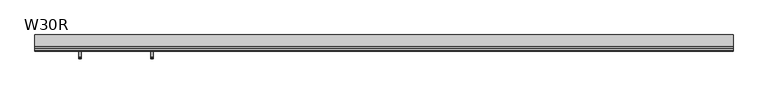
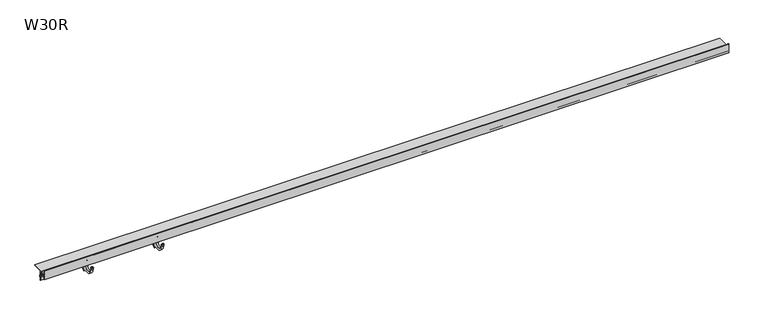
"""IFC4 building model written with IfcOpenShell, lengths in millimetres: proxy geometry, W30R Profil okapowy prosty z rynną : W30R."""

from ifc_helpers import new_model, si_unit, point, frame, frame_2d, origin, place, context, project, spatial, polyline, circle_curve, trimmed, segment, composite_curve, outline, extrude, source, transform, mapped, element, save
from ifc_brep_helpers import plane_surface, cylinder_surface, revolved_surface, advanced_brep


def w30r_80883098(model_context):
    return source(origin(), model_context, "Body", "SolidModel", [
        advanced_brep(
        [(806.4889281, -43.253125, -67.3579557), (806.4889281, 31.746875, -67.3579557), (806.4889281, 33.746875, -48.4650699), (806.4889281, 28.3326614, -49.0508489), (806.4889281, 26.9184479, -50.4650625), (806.4889281, 25.5042343, -49.0508489), (806.4889281, 26.9184479, -47.6366354), (806.4889281, 29.746875, -46.4650625), (806.4889281, 39.746875, -46.4650625), (806.4889281, 39.746875, -121.4650625), (806.4889281, -11.253125, -121.4654849), (806.4889281, -45.753125, -76.6748546), (806.4889281, -45.753125, -62.0548341), (806.4889281, -45.753125, -58.4654849), (806.4889281, -54.253125, -58.4654849), (806.4889281, -54.253125, -56.4654849), (806.4889281, -44.253125, -56.4654849), (806.4889281, -43.253125, -57.4654849), (821.4889281, -43.253125, -67.3579557), (821.4889281, -43.253125, -57.4654849), (821.4889281, -44.253125, -56.4654849), (821.4889281, -54.253125, -56.4654849), (821.4889281, -54.253125, -58.4654849), (821.4889281, -45.753125, -58.4654849), (821.4889281, -45.753125, -62.0548341), (821.4889281, -45.753125, -76.6748546), (821.4889281, -11.253125, -121.4654849), (821.4889281, 39.746875, -121.4650625), (821.4889281, 39.746875, -46.4650625), (821.4889281, 29.746875, -46.4650625), (821.4889281, 26.9184479, -47.6366354), (821.4889281, 25.5042343, -49.0508489), (821.4889281, 26.9184479, -50.4650625), (821.4889281, 28.3326614, -49.0508489), (821.4889281, 33.746875, -48.4650699), (821.4889281, 31.746875, -67.3579557), (833.4889281, 39.746875, -33.4650625), (794.4889281, 39.746875, -33.4650625), (791.4889281, 39.746875, -36.4650625), (791.4889281, 39.746875, -98.4650625), (805.7196973, 39.746875, -132.6189087), (808.4889281, 39.746875, -134.4650625), (819.4889281, 39.746875, -134.4650625), (822.2581588, 39.746875, -132.6189087), (836.4889281, 39.746875, -98.4650625), (836.4889281, 39.746875, -36.4650625), (833.4889281, 41.746875, -33.4650625), (836.4889281, 41.746875, -36.4650625), (836.4889281, 41.746875, -98.4650625), (822.2581588, 41.746875, -132.6189087), (819.4889281, 41.746875, -134.4650625), (808.4889281, 41.746875, -134.4650625), (805.7196973, 41.746875, -132.6189087), (791.4889281, 41.746875, -98.4650625), (791.4889281, 41.746875, -36.4650625), (794.4889281, 41.746875, -33.4650625)],
        [
            (0, 1, circle_curve(frame((806.4889281, -5.753125, -67.3579557), z_axis=(1.0, 0.0, 0.0), x_axis=(0.0, -1.0, 0.0)), 37.5)),
            (1, 2),
            (2, 3, circle_curve(frame((806.4889281, 32.9075381, -66.0213045), z_axis=(1.0, 0.0, 0.0), x_axis=(0.0, -1.0, 0.0)), 17.5762868)),
            (3, 4),
            (4, 5, circle_curve(frame((806.4889281, 26.2113411, -49.7579557), z_axis=(-1.0, 0.0, 0.0), x_axis=(0.0, -1.0, 0.0)), 1.0)),
            (5, 6),
            (6, 7, circle_curve(frame((806.4889281, 29.746875, -50.4650625), z_axis=(-1.0, 0.0, 0.0), x_axis=(0.0, -1.0, 0.0)), 4.0)),
            (7, 8),
            (8, 9),
            (9, 10),
            (10, 11, circle_curve(frame((806.4889281, 6.9272146, -71.7799373), z_axis=(-1.0, 0.0, 0.0), x_axis=(0.0, -1.0, 0.0)), 52.9072622)),
            (11, 12),
            (12, 13),
            (13, 14),
            (14, 15, circle_curve(frame((806.4889281, -54.253125, -57.4654849), z_axis=(-1.0, 0.0, 0.0), x_axis=(0.0, -1.0, 0.0)), 1.0)),
            (15, 16),
            (16, 17, circle_curve(frame((806.4889281, -44.253125, -57.4654849), z_axis=(-1.0, 0.0, 0.0), x_axis=(0.0, -1.0, 0.0)), 1.0)),
            (17, 0),
            (18, 19),
            (19, 20, circle_curve(frame((821.4889281, -44.253125, -57.4654849), z_axis=(1.0, 0.0, 0.0), x_axis=(0.0, -1.0, 0.0)), 1.0)),
            (20, 21),
            (21, 22, circle_curve(frame((821.4889281, -54.253125, -57.4654849), z_axis=(1.0, 0.0, 0.0), x_axis=(0.0, -1.0, 0.0)), 1.0)),
            (22, 23),
            (23, 24),
            (24, 25),
            (25, 26, circle_curve(frame((821.4889281, 6.9272146, -71.7799373), z_axis=(1.0, 0.0, 0.0), x_axis=(0.0, -1.0, 0.0)), 52.9072622)),
            (26, 27),
            (27, 28),
            (28, 29),
            (29, 30, circle_curve(frame((821.4889281, 29.746875, -50.4650625), z_axis=(1.0, 0.0, 0.0), x_axis=(0.0, -1.0, 0.0)), 4.0)),
            (30, 31),
            (31, 32, circle_curve(frame((821.4889281, 26.2113411, -49.7579557), z_axis=(1.0, 0.0, 0.0), x_axis=(0.0, -1.0, 0.0)), 1.0)),
            (32, 33),
            (33, 34, circle_curve(frame((821.4889281, 32.9075381, -66.0213045), z_axis=(-1.0, 0.0, 0.0), x_axis=(0.0, -1.0, 0.0)), 17.5762868)),
            (34, 35),
            (35, 18, circle_curve(frame((821.4889281, -5.753125, -67.3579557), z_axis=(-1.0, 0.0, 0.0), x_axis=(0.0, -1.0, 0.0)), 37.5)),
            (17, 19),
            (18, 0),
            (16, 20),
            (15, 21),
            (14, 22),
            (13, 23),
            (12, 24),
            (11, 25),
            (10, 26),
            (9, 27),
            (7, 29),
            (28, 8),
            (6, 30),
            (5, 31),
            (4, 32),
            (3, 33),
            (2, 34),
            (1, 35),
            (36, 37),
            (37, 38, circle_curve(frame((794.4889281, 39.746875, -36.4650625), z_axis=(0.0, -1.0, 0.0), x_axis=(1.0, 0.0, 0.0)), 3.0)),
            (38, 39),
            (39, 40),
            (40, 41, circle_curve(frame((808.4889281, 39.746875, -131.4650625), z_axis=(0.0, -1.0, 0.0), x_axis=(1.0, 0.0, 0.0)), 3.0)),
            (41, 42),
            (42, 43, circle_curve(frame((819.4889281, 39.746875, -131.4650625), z_axis=(0.0, -1.0, 0.0), x_axis=(1.0, 0.0, 0.0)), 3.0)),
            (43, 44),
            (44, 45),
            (45, 36, circle_curve(frame((833.4889281, 39.746875, -36.4650625), z_axis=(0.0, -1.0, 0.0), x_axis=(1.0, 0.0, 0.0)), 3.0)),
            (46, 47, circle_curve(frame((833.4889281, 41.746875, -36.4650625), z_axis=(0.0, 1.0, 0.0), x_axis=(1.0, 0.0, 0.0)), 3.0)),
            (47, 48),
            (48, 49),
            (49, 50, circle_curve(frame((819.4889281, 41.746875, -131.4650625), z_axis=(0.0, 1.0, 0.0), x_axis=(1.0, 0.0, 0.0)), 3.0)),
            (50, 51),
            (51, 52, circle_curve(frame((808.4889281, 41.746875, -131.4650625), z_axis=(0.0, 1.0, 0.0), x_axis=(1.0, 0.0, 0.0)), 3.0)),
            (52, 53),
            (53, 54),
            (54, 55, circle_curve(frame((794.4889281, 41.746875, -36.4650625), z_axis=(0.0, 1.0, 0.0), x_axis=(1.0, 0.0, 0.0)), 3.0)),
            (55, 46),
            (36, 46),
            (55, 37),
            (54, 38),
            (53, 39),
            (52, 40),
            (51, 41),
            (50, 42),
            (49, 43),
            (48, 44),
            (47, 45),
        ],
        [
            plane_surface(frame((806.4889281, -43.253125, -57.4654849), z_axis=(-1.0, 0.0, 0.0), x_axis=(0.0, 0.0, -1.0))),
            plane_surface(frame((821.4889281, -43.253125, -57.4654849), z_axis=(1.0, 0.0, 0.0), x_axis=(0.0, 0.0, 1.0))),
            plane_surface(frame((821.4889281, -43.253125, -67.3579557), z_axis=(0.0, 1.0, 0.0), x_axis=(-1.0, 0.0, 0.0))),
            cylinder_surface(frame((806.4889281, -44.253125, -57.4654849), z_axis=(1.0, 0.0, 0.0), x_axis=(0.0, -1.0, 0.0)), 1.0),
            plane_surface(frame((821.4889281, -44.253125, -56.4654849), z_axis=(0.0, 0.0, 1.0), x_axis=(-1.0, 0.0, 0.0))),
            cylinder_surface(frame((806.4889281, -54.253125, -57.4654849), z_axis=(1.0, 0.0, 0.0), x_axis=(0.0, -1.0, 0.0)), 1.0),
            plane_surface(frame((821.4889281, -54.253125, -58.4654849), z_axis=(0.0, 0.0, -1.0), x_axis=(-1.0, 0.0, 0.0))),
            plane_surface(frame((821.4889281, -45.753125, -58.4654849), z_axis=(0.0, -1.0, 0.0), x_axis=(-1.0, 0.0, 0.0))),
            plane_surface(frame((821.4889281, -45.753125, -62.0548341), z_axis=(0.0, -1.0, 0.0), x_axis=(-1.0, 0.0, 0.0))),
            cylinder_surface(frame((806.4889281, 6.9272146, -71.7799373), z_axis=(1.0, 0.0, 0.0), x_axis=(0.0, -1.0, 0.0)), 52.9072622),
            plane_surface(frame((821.4889281, -11.253125, -121.4654849), z_axis=(0.0, 8.283194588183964e-06, -0.9999999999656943), x_axis=(-1.0, 0.0, 0.0))),
            plane_surface(frame((821.4889281, 40.7901639, -46.4650625), z_axis=(0.0, 0.0, 1.0), x_axis=(-1.0, 0.0, 0.0))),
            cylinder_surface(frame((806.4889281, 29.746875, -50.4650625), z_axis=(1.0, 0.0, 0.0), x_axis=(0.0, -1.0, 0.0)), 4.0),
            plane_surface(frame((821.4889281, 26.9184479, -47.6366354), z_axis=(0.0, -0.7071067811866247, 0.7071067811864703), x_axis=(-1.0, 0.0, 0.0))),
            cylinder_surface(frame((806.4889281, 26.2113411, -49.7579557), z_axis=(1.0, 0.0, 0.0), x_axis=(0.0, -1.0, 0.0)), 1.0),
            plane_surface(frame((821.4889281, 26.9184479, -50.4650625), z_axis=(0.0, 0.7071067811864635, -0.7071067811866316), x_axis=(-1.0, 0.0, 0.0))),
            revolved_surface(polyline([(806.4889281, 15.331251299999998, -66.0213045), (821.4889281, 15.331251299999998, -66.0213045)]), (806.4889281, 32.9075381, -66.0213045), (-1.0, 0.0, 0.0)),
            plane_surface(frame((821.4889281, 33.746875, -48.4650699), z_axis=(0.0, -0.9944434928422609, 0.10527174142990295), x_axis=(-1.0, 0.0, 0.0))),
            revolved_surface(polyline([(806.4889281, -43.253125, -67.3579557), (821.4889281, -43.253125, -67.3579557)]), (806.4889281, -5.753125, -67.3579557), (-1.0, 0.0, 0.0)),
            plane_surface(frame((794.4889281, 39.746875, -33.4650625), z_axis=(0.0, -1.0, 0.0), x_axis=(-1.0, 0.0, 0.0))),
            plane_surface(frame((794.4889281, 41.746875, -33.4650625), z_axis=(0.0, 1.0, 0.0), x_axis=(1.0, 0.0, 0.0))),
            plane_surface(frame((833.4889281, 39.746875, -33.4650625), z_axis=(0.0, 0.0, 1.0), x_axis=(0.0, 1.0, 0.0))),
            cylinder_surface(frame((794.4889281, 41.746875, -36.4650625), z_axis=(0.0, -1.0, 0.0), x_axis=(1.0, 0.0, 0.0)), 3.0),
            plane_surface(frame((791.4889281, 39.746875, -36.4650625), z_axis=(-1.0, 0.0, 0.0), x_axis=(0.0, 1.0, 0.0))),
            plane_surface(frame((791.4889281, 39.746875, -98.4650625), z_axis=(-0.9230769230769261, 0.0, -0.38461538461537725), x_axis=(0.0, 1.0, 0.0))),
            cylinder_surface(frame((808.4889281, 41.746875, -131.4650625), z_axis=(0.0, -1.0, 0.0), x_axis=(1.0, 0.0, 0.0)), 3.0),
            plane_surface(frame((808.4889281, 39.746875, -134.4650625), z_axis=(0.0, 0.0, -1.0), x_axis=(0.0, 1.0, 0.0))),
            cylinder_surface(frame((819.4889281, 41.746875, -131.4650625), z_axis=(0.0, -1.0, 0.0), x_axis=(1.0, 0.0, 0.0)), 3.0),
            plane_surface(frame((822.2581588, 39.746875, -132.6189087), z_axis=(0.9230769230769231, 0.0, -0.3846153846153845), x_axis=(0.0, 1.0, 0.0))),
            plane_surface(frame((836.4889281, 39.746875, -98.4650625), z_axis=(1.0, 0.0, 0.0), x_axis=(0.0, 1.0, 0.0))),
            cylinder_surface(frame((833.4889281, 41.746875, -36.4650625), z_axis=(0.0, -1.0, 0.0), x_axis=(1.0, 0.0, 0.0)), 3.0),
        ],
        [
            (0, [[1, 2, 3, 4, 5, 6, 7, 8, 9, 10, 11, 12, 13, 14, 15, 16, 17, 18]]),
            (1, [[19, 20, 21, 22, 23, 24, 25, 26, 27, 28, 29, 30, 31, 32, 33, 34, 35, 36]]),
            (2, [[-18, 37, -19, 38]]),
            (3, [[-17, 39, -20, -37]]),
            (4, [[-16, 40, -21, -39]]),
            (5, [[-15, 41, -22, -40]]),
            (6, [[-14, 42, -23, -41]]),
            (7, [[-13, 43, -24, -42]]),
            (8, [[-12, 44, -25, -43]]),
            (9, [[-11, 45, -26, -44]]),
            (10, [[-45, -10, 46, -27]]),
            (11, [[47, -29, 48, -8]]),
            (12, [[-7, 49, -30, -47]]),
            (13, [[-6, 50, -31, -49]]),
            (14, [[-5, 51, -32, -50]]),
            (15, [[-4, 52, -33, -51]]),
            (16, [[-3, 53, -34, -52]]),
            (17, [[-2, 54, -35, -53]]),
            (18, [[-1, -38, -36, -54]]),
            (19, [[55, 56, 57, 58, 59, 60, 61, 62, 63, 64], [-9, -48, -28, -46]]),
            (20, [[65, 66, 67, 68, 69, 70, 71, 72, 73, 74]]),
            (21, [[-55, 75, -74, 76]]),
            (22, [[-56, -76, -73, 77]]),
            (23, [[-57, -77, -72, 78]]),
            (24, [[-58, -78, -71, 79]]),
            (25, [[-59, -79, -70, 80]]),
            (26, [[-60, -80, -69, 81]]),
            (27, [[-61, -81, -68, 82]]),
            (28, [[-62, -82, -67, 83]]),
            (29, [[-63, -83, -66, 84]]),
            (30, [[-64, -84, -65, -75]]),
        ],
    ),
        advanced_brep(
        [(306.4889281, -43.253125, -67.3579557), (306.4889281, 31.746875, -67.3579557), (306.4889281, 33.746875, -48.4650699), (306.4889281, 28.3326614, -49.0508489), (306.4889281, 26.9184479, -50.4650625), (306.4889281, 25.5042343, -49.0508489), (306.4889281, 26.9184479, -47.6366354), (306.4889281, 29.746875, -46.4650625), (306.4889281, 39.746875, -46.4650625), (306.4889281, 39.746875, -121.4650625), (306.4889281, -11.253125, -121.4654849), (306.4889281, -45.753125, -76.6748546), (306.4889281, -45.753125, -62.0548341), (306.4889281, -45.753125, -58.4654849), (306.4889281, -54.253125, -58.4654849), (306.4889281, -54.253125, -56.4654849), (306.4889281, -44.253125, -56.4654849), (306.4889281, -43.253125, -57.4654849), (321.4889281, -43.253125, -67.3579557), (321.4889281, -43.253125, -57.4654849), (321.4889281, -44.253125, -56.4654849), (321.4889281, -54.253125, -56.4654849), (321.4889281, -54.253125, -58.4654849), (321.4889281, -45.753125, -58.4654849), (321.4889281, -45.753125, -62.0548341), (321.4889281, -45.753125, -76.6748546), (321.4889281, -11.253125, -121.4654849), (321.4889281, 39.746875, -121.4650625), (321.4889281, 39.746875, -46.4650625), (321.4889281, 29.746875, -46.4650625), (321.4889281, 26.9184479, -47.6366354), (321.4889281, 25.5042343, -49.0508489), (321.4889281, 26.9184479, -50.4650625), (321.4889281, 28.3326614, -49.0508489), (321.4889281, 33.746875, -48.4650699), (321.4889281, 31.746875, -67.3579557), (333.4889281, 39.746875, -33.4650625), (294.4889281, 39.746875, -33.4650625), (291.4889281, 39.746875, -36.4650625), (291.4889281, 39.746875, -98.4650625), (305.7196973, 39.746875, -132.6189087), (308.4889281, 39.746875, -134.4650625), (319.4889281, 39.746875, -134.4650625), (322.2581588, 39.746875, -132.6189087), (336.4889281, 39.746875, -98.4650625), (336.4889281, 39.746875, -36.4650625), (333.4889281, 41.746875, -33.4650625), (336.4889281, 41.746875, -36.4650625), (336.4889281, 41.746875, -98.4650625), (322.2581588, 41.746875, -132.6189087), (319.4889281, 41.746875, -134.4650625), (308.4889281, 41.746875, -134.4650625), (305.7196973, 41.746875, -132.6189087), (291.4889281, 41.746875, -98.4650625), (291.4889281, 41.746875, -36.4650625), (294.4889281, 41.746875, -33.4650625)],
        [
            (0, 1, circle_curve(frame((306.4889281, -5.753125, -67.3579557), z_axis=(1.0, 0.0, 0.0), x_axis=(0.0, -1.0, 0.0)), 37.5)),
            (1, 2),
            (2, 3, circle_curve(frame((306.4889281, 32.9075381, -66.0213045), z_axis=(1.0, 0.0, 0.0), x_axis=(0.0, -1.0, 0.0)), 17.5762868)),
            (3, 4),
            (4, 5, circle_curve(frame((306.4889281, 26.2113411, -49.7579557), z_axis=(-1.0, 0.0, 0.0), x_axis=(0.0, -1.0, 0.0)), 1.0)),
            (5, 6),
            (6, 7, circle_curve(frame((306.4889281, 29.746875, -50.4650625), z_axis=(-1.0, 0.0, 0.0), x_axis=(0.0, -1.0, 0.0)), 4.0)),
            (7, 8),
            (8, 9),
            (9, 10),
            (10, 11, circle_curve(frame((306.4889281, 6.9272146, -71.7799373), z_axis=(-1.0, 0.0, 0.0), x_axis=(0.0, -1.0, 0.0)), 52.9072622)),
            (11, 12),
            (12, 13),
            (13, 14),
            (14, 15, circle_curve(frame((306.4889281, -54.253125, -57.4654849), z_axis=(-1.0, 0.0, 0.0), x_axis=(0.0, -1.0, 0.0)), 1.0)),
            (15, 16),
            (16, 17, circle_curve(frame((306.4889281, -44.253125, -57.4654849), z_axis=(-1.0, 0.0, 0.0), x_axis=(0.0, -1.0, 0.0)), 1.0)),
            (17, 0),
            (18, 19),
            (19, 20, circle_curve(frame((321.4889281, -44.253125, -57.4654849), z_axis=(1.0, 0.0, 0.0), x_axis=(0.0, -1.0, 0.0)), 1.0)),
            (20, 21),
            (21, 22, circle_curve(frame((321.4889281, -54.253125, -57.4654849), z_axis=(1.0, 0.0, 0.0), x_axis=(0.0, -1.0, 0.0)), 1.0)),
            (22, 23),
            (23, 24),
            (24, 25),
            (25, 26, circle_curve(frame((321.4889281, 6.9272146, -71.7799373), z_axis=(1.0, 0.0, 0.0), x_axis=(0.0, -1.0, 0.0)), 52.9072622)),
            (26, 27),
            (27, 28),
            (28, 29),
            (29, 30, circle_curve(frame((321.4889281, 29.746875, -50.4650625), z_axis=(1.0, 0.0, 0.0), x_axis=(0.0, -1.0, 0.0)), 4.0)),
            (30, 31),
            (31, 32, circle_curve(frame((321.4889281, 26.2113411, -49.7579557), z_axis=(1.0, 0.0, 0.0), x_axis=(0.0, -1.0, 0.0)), 1.0)),
            (32, 33),
            (33, 34, circle_curve(frame((321.4889281, 32.9075381, -66.0213045), z_axis=(-1.0, 0.0, 0.0), x_axis=(0.0, -1.0, 0.0)), 17.5762868)),
            (34, 35),
            (35, 18, circle_curve(frame((321.4889281, -5.753125, -67.3579557), z_axis=(-1.0, 0.0, 0.0), x_axis=(0.0, -1.0, 0.0)), 37.5)),
            (17, 19),
            (18, 0),
            (16, 20),
            (15, 21),
            (14, 22),
            (13, 23),
            (12, 24),
            (11, 25),
            (10, 26),
            (9, 27),
            (7, 29),
            (28, 8),
            (6, 30),
            (5, 31),
            (4, 32),
            (3, 33),
            (2, 34),
            (1, 35),
            (36, 37),
            (37, 38, circle_curve(frame((294.4889281, 39.746875, -36.4650625), z_axis=(0.0, -1.0, 0.0), x_axis=(1.0, 0.0, 0.0)), 3.0)),
            (38, 39),
            (39, 40),
            (40, 41, circle_curve(frame((308.4889281, 39.746875, -131.4650625), z_axis=(0.0, -1.0, 0.0), x_axis=(1.0, 0.0, 0.0)), 3.0)),
            (41, 42),
            (42, 43, circle_curve(frame((319.4889281, 39.746875, -131.4650625), z_axis=(0.0, -1.0, 0.0), x_axis=(1.0, 0.0, 0.0)), 3.0)),
            (43, 44),
            (44, 45),
            (45, 36, circle_curve(frame((333.4889281, 39.746875, -36.4650625), z_axis=(0.0, -1.0, 0.0), x_axis=(1.0, 0.0, 0.0)), 3.0)),
            (46, 47, circle_curve(frame((333.4889281, 41.746875, -36.4650625), z_axis=(0.0, 1.0, 0.0), x_axis=(1.0, 0.0, 0.0)), 3.0)),
            (47, 48),
            (48, 49),
            (49, 50, circle_curve(frame((319.4889281, 41.746875, -131.4650625), z_axis=(0.0, 1.0, 0.0), x_axis=(1.0, 0.0, 0.0)), 3.0)),
            (50, 51),
            (51, 52, circle_curve(frame((308.4889281, 41.746875, -131.4650625), z_axis=(0.0, 1.0, 0.0), x_axis=(1.0, 0.0, 0.0)), 3.0)),
            (52, 53),
            (53, 54),
            (54, 55, circle_curve(frame((294.4889281, 41.746875, -36.4650625), z_axis=(0.0, 1.0, 0.0), x_axis=(1.0, 0.0, 0.0)), 3.0)),
            (55, 46),
            (36, 46),
            (55, 37),
            (54, 38),
            (53, 39),
            (52, 40),
            (51, 41),
            (50, 42),
            (49, 43),
            (48, 44),
            (47, 45),
        ],
        [
            plane_surface(frame((306.4889281, -43.253125, -57.4654849), z_axis=(-1.0, 0.0, 0.0), x_axis=(0.0, 0.0, -1.0))),
            plane_surface(frame((321.4889281, -43.253125, -57.4654849), z_axis=(1.0, 0.0, 0.0), x_axis=(0.0, 0.0, 1.0))),
            plane_surface(frame((321.4889281, -43.253125, -67.3579557), z_axis=(0.0, 1.0, 0.0), x_axis=(-1.0, 0.0, 0.0))),
            cylinder_surface(frame((306.4889281, -44.253125, -57.4654849), z_axis=(1.0, 0.0, 0.0), x_axis=(0.0, -1.0, 0.0)), 1.0),
            plane_surface(frame((321.4889281, -44.253125, -56.4654849), z_axis=(0.0, 0.0, 1.0), x_axis=(-1.0, 0.0, 0.0))),
            cylinder_surface(frame((306.4889281, -54.253125, -57.4654849), z_axis=(1.0, 0.0, 0.0), x_axis=(0.0, -1.0, 0.0)), 1.0),
            plane_surface(frame((321.4889281, -54.253125, -58.4654849), z_axis=(0.0, 0.0, -1.0), x_axis=(-1.0, 0.0, 0.0))),
            plane_surface(frame((321.4889281, -45.753125, -58.4654849), z_axis=(0.0, -1.0, 0.0), x_axis=(-1.0, 0.0, 0.0))),
            plane_surface(frame((321.4889281, -45.753125, -62.0548341), z_axis=(0.0, -1.0, 0.0), x_axis=(-1.0, 0.0, 0.0))),
            cylinder_surface(frame((306.4889281, 6.9272146, -71.7799373), z_axis=(1.0, 0.0, 0.0), x_axis=(0.0, -1.0, 0.0)), 52.9072622),
            plane_surface(frame((321.4889281, -11.253125, -121.4654849), z_axis=(0.0, 8.283194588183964e-06, -0.9999999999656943), x_axis=(-1.0, 0.0, 0.0))),
            plane_surface(frame((321.4889281, 40.7901639, -46.4650625), z_axis=(0.0, 0.0, 1.0), x_axis=(-1.0, 0.0, 0.0))),
            cylinder_surface(frame((306.4889281, 29.746875, -50.4650625), z_axis=(1.0, 0.0, 0.0), x_axis=(0.0, -1.0, 0.0)), 4.0),
            plane_surface(frame((321.4889281, 26.9184479, -47.6366354), z_axis=(0.0, -0.7071067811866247, 0.7071067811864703), x_axis=(-1.0, 0.0, 0.0))),
            cylinder_surface(frame((306.4889281, 26.2113411, -49.7579557), z_axis=(1.0, 0.0, 0.0), x_axis=(0.0, -1.0, 0.0)), 1.0),
            plane_surface(frame((321.4889281, 26.9184479, -50.4650625), z_axis=(0.0, 0.7071067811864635, -0.7071067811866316), x_axis=(-1.0, 0.0, 0.0))),
            revolved_surface(polyline([(306.4889281, 15.331251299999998, -66.0213045), (321.4889281, 15.331251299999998, -66.0213045)]), (306.4889281, 32.9075381, -66.0213045), (-1.0, 0.0, 0.0)),
            plane_surface(frame((321.4889281, 33.746875, -48.4650699), z_axis=(0.0, -0.9944434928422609, 0.10527174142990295), x_axis=(-1.0, 0.0, 0.0))),
            revolved_surface(polyline([(306.4889281, -43.253125, -67.3579557), (321.4889281, -43.253125, -67.3579557)]), (306.4889281, -5.753125, -67.3579557), (-1.0, 0.0, 0.0)),
            plane_surface(frame((294.4889281, 39.746875, -33.4650625), z_axis=(0.0, -1.0, 0.0), x_axis=(-1.0, 0.0, 0.0))),
            plane_surface(frame((294.4889281, 41.746875, -33.4650625), z_axis=(0.0, 1.0, 0.0), x_axis=(1.0, 0.0, 0.0))),
            plane_surface(frame((333.4889281, 39.746875, -33.4650625), z_axis=(0.0, 0.0, 1.0), x_axis=(0.0, 1.0, 0.0))),
            cylinder_surface(frame((294.4889281, 41.746875, -36.4650625), z_axis=(0.0, -1.0, 0.0), x_axis=(1.0, 0.0, 0.0)), 3.0),
            plane_surface(frame((291.4889281, 39.746875, -36.4650625), z_axis=(-1.0, 0.0, 0.0), x_axis=(0.0, 1.0, 0.0))),
            plane_surface(frame((291.4889281, 39.746875, -98.4650625), z_axis=(-0.9230769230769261, 0.0, -0.38461538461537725), x_axis=(0.0, 1.0, 0.0))),
            cylinder_surface(frame((308.4889281, 41.746875, -131.4650625), z_axis=(0.0, -1.0, 0.0), x_axis=(1.0, 0.0, 0.0)), 3.0),
            plane_surface(frame((308.4889281, 39.746875, -134.4650625), z_axis=(0.0, 0.0, -1.0), x_axis=(0.0, 1.0, 0.0))),
            cylinder_surface(frame((319.4889281, 41.746875, -131.4650625), z_axis=(0.0, -1.0, 0.0), x_axis=(1.0, 0.0, 0.0)), 3.0),
            plane_surface(frame((322.2581588, 39.746875, -132.6189087), z_axis=(0.9230769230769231, 0.0, -0.3846153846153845), x_axis=(0.0, 1.0, 0.0))),
            plane_surface(frame((336.4889281, 39.746875, -98.4650625), z_axis=(1.0, 0.0, 0.0), x_axis=(0.0, 1.0, 0.0))),
            cylinder_surface(frame((333.4889281, 41.746875, -36.4650625), z_axis=(0.0, -1.0, 0.0), x_axis=(1.0, 0.0, 0.0)), 3.0),
        ],
        [
            (0, [[1, 2, 3, 4, 5, 6, 7, 8, 9, 10, 11, 12, 13, 14, 15, 16, 17, 18]]),
            (1, [[19, 20, 21, 22, 23, 24, 25, 26, 27, 28, 29, 30, 31, 32, 33, 34, 35, 36]]),
            (2, [[-18, 37, -19, 38]]),
            (3, [[-17, 39, -20, -37]]),
            (4, [[-16, 40, -21, -39]]),
            (5, [[-15, 41, -22, -40]]),
            (6, [[-14, 42, -23, -41]]),
            (7, [[-13, 43, -24, -42]]),
            (8, [[-12, 44, -25, -43]]),
            (9, [[-11, 45, -26, -44]]),
            (10, [[-45, -10, 46, -27]]),
            (11, [[47, -29, 48, -8]]),
            (12, [[-7, 49, -30, -47]]),
            (13, [[-6, 50, -31, -49]]),
            (14, [[-5, 51, -32, -50]]),
            (15, [[-4, 52, -33, -51]]),
            (16, [[-3, 53, -34, -52]]),
            (17, [[-2, 54, -35, -53]]),
            (18, [[-1, -38, -36, -54]]),
            (19, [[55, 56, 57, 58, 59, 60, 61, 62, 63, 64], [-9, -48, -28, -46]]),
            (20, [[65, 66, 67, 68, 69, 70, 71, 72, 73, 74]]),
            (21, [[-55, 75, -74, 76]]),
            (22, [[-56, -76, -73, 77]]),
            (23, [[-57, -77, -72, 78]]),
            (24, [[-58, -78, -71, 79]]),
            (25, [[-59, -79, -70, 80]]),
            (26, [[-60, -80, -69, 81]]),
            (27, [[-61, -81, -68, 82]]),
            (28, [[-62, -82, -67, 83]]),
            (29, [[-63, -83, -66, 84]]),
            (30, [[-64, -84, -65, -75]]),
        ],
    ),
        extrude(outline(composite_curve([segment(polyline([(41.76, -66.726163), (41.76, -25.926163), (31.36, -25.926163)]), True, "CONTINUOUS"), segment(trimmed(circle_curve(frame_2d((31.36, -37.606163)), 11.68), [point((31.36, -25.926163))], [point((19.68, -37.606163))], True, "CARTESIAN"), True, "CONTINUOUS"), segment(polyline([(19.68, -37.606163), (19.68, -55.0930368), (17.76, -55.0930368), (17.76, -51.766163), (-1.04, -51.766163), (-1.04, -65.216302), (-2.24, -66.416302), (-2.24, -2.24)]), True, "CONTINUOUS"), segment(trimmed(circle_curve(frame_2d((0.0, -2.24)), 2.24), [point((-2.24, -2.24))], [point((0.0, 0.0))], False, "CARTESIAN"), True, "CONTINUOUS"), segment(polyline([(0.0, 0.0), (0.0, -1.4327357)]), True, "CONTINUOUS"), segment(trimmed(circle_curve(frame_2d((0.0, -2.2327357)), 0.8), [point((0.0, -1.4327357))], [point((-0.8, -2.2327357))], True, "CARTESIAN"), True, "CONTINUOUS"), segment(polyline([(-0.8, -2.2327357), (-0.8, -49.846163), (17.76, -49.846163), (17.76, -37.606163)]), True, "CONTINUOUS"), segment(trimmed(circle_curve(frame_2d((31.36, -37.606163)), 13.6), [point((17.76, -37.606163))], [point((31.36, -24.006163))], False, "CARTESIAN"), True, "CONTINUOUS"), segment(polyline([(31.36, -24.006163), (111.68, -24.006163), (111.68, -25.926163), (43.12, -25.926163), (43.12, -61.926163), (50.32, -61.926163), (50.32, -75.526163), (43.04, -75.526163), (43.04, -97.190163), (41.76, -97.190163), (41.76, -70.726163), (43.76, -70.726163), (43.76, -74.326163), (48.96, -74.326163), (48.96, -63.126163), (43.76, -63.126163), (43.76, -66.726163), (41.76, -66.726163)]), True, "CONTINUOUS")], self_intersect=False)), frame((0.0, 0.0, 0.0), z_axis=(1.0, 0.0, 0.0), x_axis=(0.0, 1.0, 0.0)), (0.0, 0.0, 1.0), 4855.0),
    ])


if __name__ == "__main__":
    model = new_model("IFC4")
    model_context = context("Model", 3, world=origin())
    ifc_project = project(units=[si_unit("LENGTHUNIT", "METRE", prefix="MILLI")], contexts=[model_context])
    site = spatial("IfcSite", under=ifc_project)
    building = spatial("IfcBuilding", under=site)
    placement = place(None, origin())
    w30r_shape = w30r_80883098(model_context)
    element("IfcBuildingElementProxy", 1, Name="W30R Profil okapowy prosty z rynną : W30R", ObjectType="W30R Profil okapowy prosty z rynną : W30R", at=placement, inside=building, context=model_context, shape_type="MappedRepresentation", body=[
        mapped(w30r_shape, transform((0.0, 0.0, 0.0), x_axis=(1.0, 0.0, 0.0), y_axis=(0.0, 1.0, 0.0), z_axis=(0.0, 0.0, 1.0))),
    ])
    save(model, "model.ifc")
